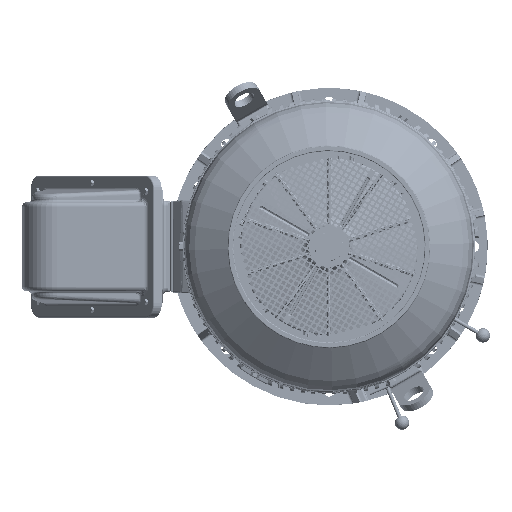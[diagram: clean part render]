
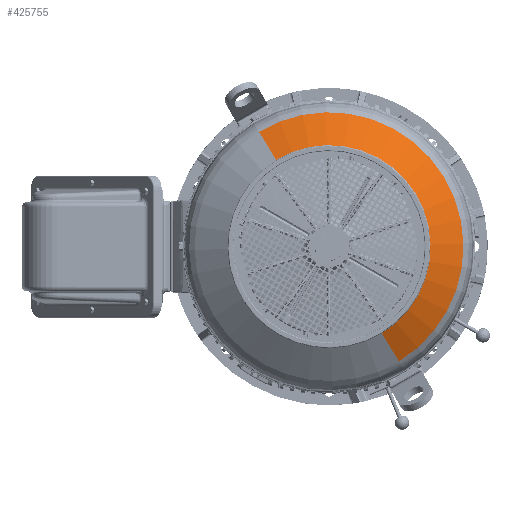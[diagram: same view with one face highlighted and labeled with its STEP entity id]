
A CAD part, front view. The second image highlights one B-rep face of the part: STEP entity #425755.
In plain terms, the highlighted conical face has half-angle 55 degrees and reference radius 211.279 mm.
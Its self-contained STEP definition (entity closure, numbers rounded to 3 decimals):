
#425648=CARTESIAN_POINT('Vertex',(-101.293,-271.104,-185.415)) ;
#425650=CARTESIAN_POINT('Vertex',(101.293,-271.104,185.415)) ;
#425670=CARTESIAN_POINT('Axis2P3D Location',(0.,-271.104,0.)) ;
#425713=CARTESIAN_POINT('Axis2P3D Location',(0.,-271.104,0.)) ;
#425722=CARTESIAN_POINT('Vertex',(-134.085,-223.21,-245.441)) ;
#425724=CARTESIAN_POINT('Vertex',(134.085,-223.21,245.441)) ;
#425727=CARTESIAN_POINT('Line Origine',(-117.689,-247.157,-215.428)) ;
#425732=CARTESIAN_POINT('Line Origine',(117.689,-247.157,215.428)) ;
#425744=CARTESIAN_POINT('Axis2P3D Location',(0.,-223.21,0.)) ;
#425671=DIRECTION('Axis2P3D Direction',(0.,1.,0.)) ;
#425714=DIRECTION('Axis2P3D Direction',(0.,1.,0.)) ;
#425715=DIRECTION('Axis2P3D XDirection',(0.479,0.,0.878)) ;
#425728=DIRECTION('Vector Direction',(-0.393,0.574,-0.719)) ;
#425733=DIRECTION('Vector Direction',(0.393,0.574,0.719)) ;
#425745=DIRECTION('Axis2P3D Direction',(0.,1.,0.)) ;
#425672=AXIS2_PLACEMENT_3D('Circle Axis2P3D',#425670,#425671,$) ;
#425716=AXIS2_PLACEMENT_3D('Cone Axis2P3D',#425713,#425714,#425715) ;
#425746=AXIS2_PLACEMENT_3D('Circle Axis2P3D',#425744,#425745,$) ;
#425750=ORIENTED_EDGE('',*,*,#425748,.F.) ;
#425751=ORIENTED_EDGE('',*,*,#425736,.T.) ;
#425752=ORIENTED_EDGE('',*,*,#425674,.T.) ;
#425753=ORIENTED_EDGE('',*,*,#425731,.F.) ;
#425729=VECTOR('Line Direction',#425728,1.) ;
#425734=VECTOR('Line Direction',#425733,1.) ;
#425755=ADVANCED_FACE('\X2\51434EF6672C9AD4\X0\',(#425754),#425717,.T.) ;
#425673=CIRCLE('generated circle',#425672,211.279) ;
#425747=CIRCLE('generated circle',#425746,279.679) ;
#425717=CONICAL_SURFACE('Cone',#425716,211.279,0.96) ;
#425674=EDGE_CURVE('',#425651,#425649,#425673,.T.) ;
#425731=EDGE_CURVE('',#425723,#425649,#425730,.F.) ;
#425736=EDGE_CURVE('',#425725,#425651,#425735,.F.) ;
#425748=EDGE_CURVE('',#425725,#425723,#425747,.T.) ;
#425749=EDGE_LOOP('',(#425750,#425751,#425752,#425753)) ;
#425754=FACE_OUTER_BOUND('',#425749,.T.) ;
#425730=LINE('Line',#425727,#425729) ;
#425735=LINE('Line',#425732,#425734) ;
#425649=VERTEX_POINT('',#425648) ;
#425651=VERTEX_POINT('',#425650) ;
#425723=VERTEX_POINT('',#425722) ;
#425725=VERTEX_POINT('',#425724) ;
